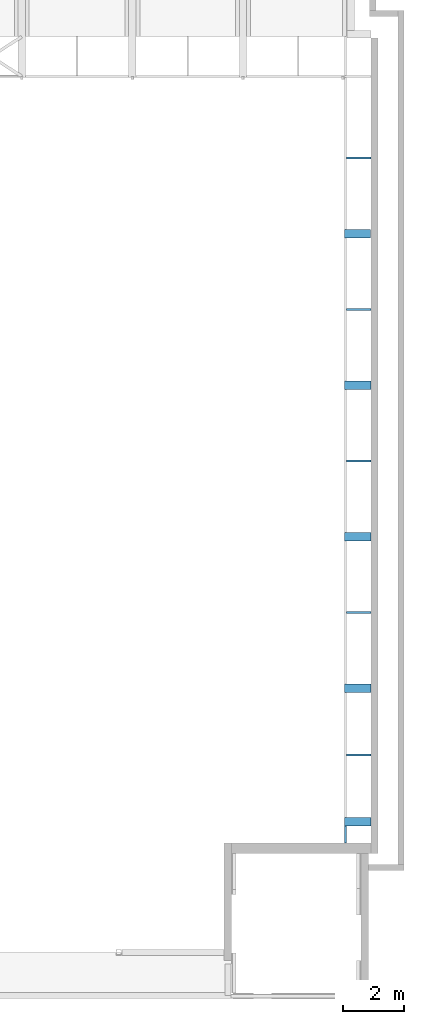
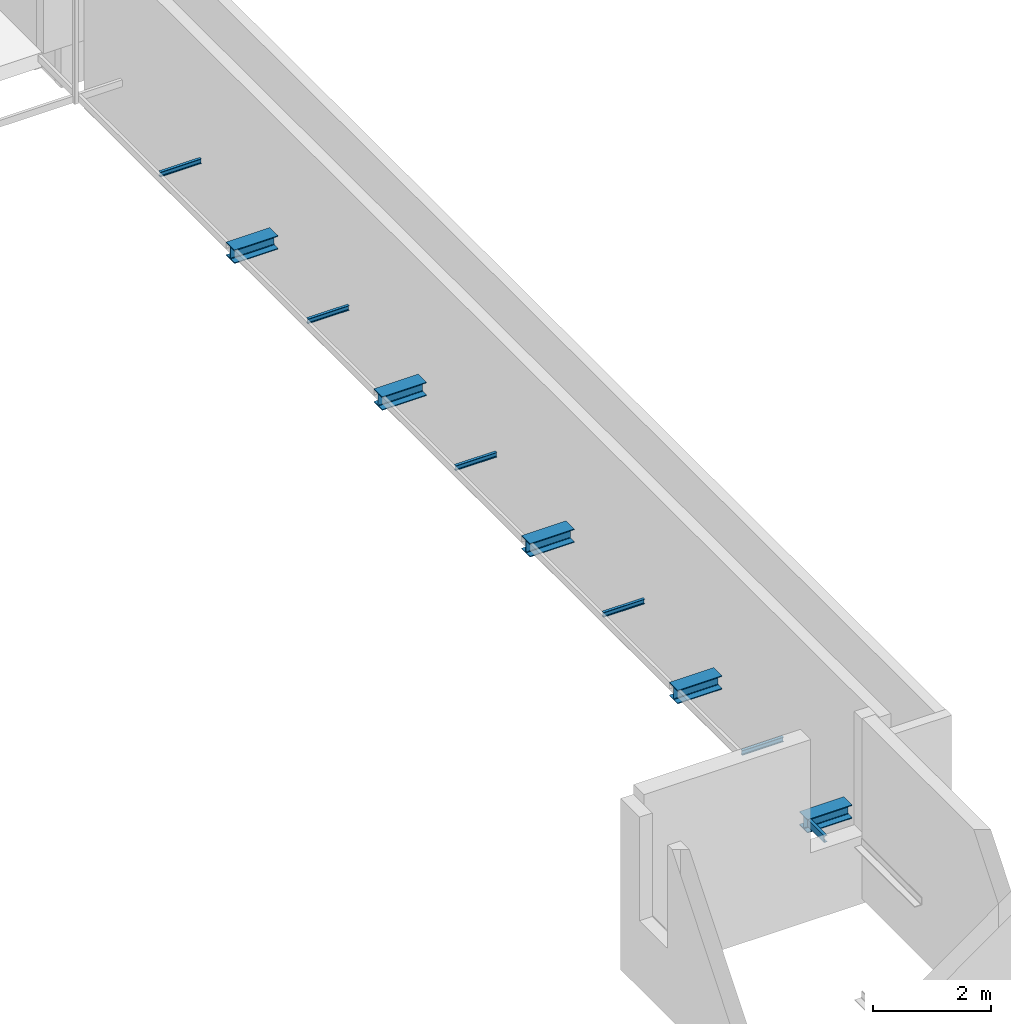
# One storey, part 47 of 68: 11 beams.
"""IFC2X3 building model written with IfcOpenShell, lengths in millimetres."""

from ifc_helpers import new_model, entity, si_unit, converted_unit, derived_unit, direction, frame, frame_2d, origin, place, context, subcontext, project, spatial, polyline, circle_curve, parameter, trimmed, segment, composite_curve, outline, extrude, material, type_object, element, save


model = new_model("IFC2X3")

# Units and contexts
model_context = context("Model", 3, precision=0.01, world=origin(), true_north=direction((6.12303176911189e-17, 1.0)))
body_context = subcontext(model_context, "Body", "Model", "MODEL_VIEW")
ifc_project = project(units=[si_unit("LENGTHUNIT", "METRE", prefix="MILLI"), si_unit("AREAUNIT", "SQUARE_METRE", prefix="MILLI"), si_unit("VOLUMEUNIT", "CUBIC_METRE"), converted_unit("PLANEANGLEUNIT", "DEGREE", entity("IfcRatioMeasure", 0.0174532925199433), si_unit("PLANEANGLEUNIT", "RADIAN"), dimensions=[0, 0, 0, 0, 0, 0, 0]), si_unit("MASSUNIT", "GRAM", prefix="KILO"), derived_unit("MASSDENSITYUNIT", [(si_unit("MASSUNIT", "GRAM", prefix="KILO"), 1), (si_unit("LENGTHUNIT", "METRE"), -3)]), derived_unit("MOMENTOFINERTIAUNIT", [(si_unit("LENGTHUNIT", "METRE"), 4)]), si_unit("TIMEUNIT", "SECOND"), si_unit("FREQUENCYUNIT", "HERTZ"), si_unit("THERMODYNAMICTEMPERATUREUNIT", "DEGREE_CELSIUS"), derived_unit("THERMALTRANSMITTANCEUNIT", [(si_unit("MASSUNIT", "GRAM", prefix="KILO"), 1), (si_unit("THERMODYNAMICTEMPERATUREUNIT", "KELVIN"), -1), (si_unit("TIMEUNIT", "SECOND"), -3)]), derived_unit("VOLUMETRICFLOWRATEUNIT", [(si_unit("LENGTHUNIT", "METRE"), 3), (si_unit("TIMEUNIT", "SECOND"), -1)]), si_unit("ELECTRICCURRENTUNIT", "AMPERE"), si_unit("ELECTRICVOLTAGEUNIT", "VOLT"), si_unit("POWERUNIT", "WATT"), si_unit("FORCEUNIT", "NEWTON", prefix="KILO"), si_unit("ILLUMINANCEUNIT", "LUX"), si_unit("LUMINOUSFLUXUNIT", "LUMEN"), si_unit("LUMINOUSINTENSITYUNIT", "CANDELA"), derived_unit("USERDEFINED", [(si_unit("MASSUNIT", "GRAM", prefix="KILO"), -1), (si_unit("LENGTHUNIT", "METRE"), -2), (si_unit("TIMEUNIT", "SECOND"), 3), (si_unit("LUMINOUSFLUXUNIT", "LUMEN"), 1)]), derived_unit("LINEARVELOCITYUNIT", [(si_unit("LENGTHUNIT", "METRE"), 1), (si_unit("TIMEUNIT", "SECOND"), -1)]), si_unit("PRESSUREUNIT", "PASCAL"), derived_unit("USERDEFINED", [(si_unit("LENGTHUNIT", "METRE"), -2), (si_unit("MASSUNIT", "GRAM", prefix="KILO"), 1), (si_unit("TIMEUNIT", "SECOND"), -2)]), derived_unit("LINEARFORCEUNIT", [(si_unit("MASSUNIT", "GRAM", prefix="KILO"), 1), (si_unit("LENGTHUNIT", "METRE"), 1), (si_unit("TIMEUNIT", "SECOND"), -2), (si_unit("LENGTHUNIT", "METRE"), -1)]), derived_unit("PLANARFORCEUNIT", [(si_unit("MASSUNIT", "GRAM", prefix="KILO"), 1), (si_unit("LENGTHUNIT", "METRE"), 1), (si_unit("TIMEUNIT", "SECOND"), -2), (si_unit("LENGTHUNIT", "METRE"), -2)])], contexts=[model_context])

# Site, building, storey
site_placement = place(None, origin())
site = spatial("IfcSite", under=ifc_project, at=site_placement, Name="Theater aan de Parade", CompositionType="ELEMENT")
building_placement = place(site_placement, origin())
building = spatial("IfcBuilding", under=site, at=building_placement, Name="Theater aan de Parade", CompositionType="ELEMENT")
storey_placement = place(building_placement, frame((0.0, 0.0, 8750.0)))
storey = spatial("IfcBuildingStorey", under=building, at=storey_placement, Name="02 tweede verdieping", CompositionType="ELEMENT", Elevation=8750.0)

# Beams
ifc_material = material(Name="00_PBT_MAT_staal_S355")
beam_type_1 = type_object("IfcBeamType", Name="28_PBT_SF_staal_UNP-profiel:S355_UNP140", PredefinedType="NOTDEFINED")
beam_1_placement = place(storey_placement, frame((86243.6688810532, 19810.0002435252, 0.0), z_axis=(0.0, 0.0, 1.0), x_axis=(0.0, 1.0, 0.0)))
element("IfcBeam", 1, at=beam_1_placement, inside=storey, type_object=beam_type_1, material=ifc_material, Name="28_PBT_SF_staal_UNP-profiel:S355_UNP140", ObjectType="28_PBT_SF_staal_UNP-profiel:S355_UNP140", context=body_context, shape_type="SweptSolid", body=[
    extrude(outline(composite_curve([segment(polyline([(67.0159744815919, -26.8997876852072), (70.0, -26.8997876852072)]), True, "CONTINUOUS"), segment(polyline([(70.0, -26.8997876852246), (70.0, 33.1002123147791)]), True, "CONTINUOUS"), segment(polyline([(70.0, 33.1002123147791), (-70.0, 33.1002123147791)]), True, "CONTINUOUS"), segment(polyline([(-70.0, 33.1002123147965), (-70.0, -26.8997876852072)]), True, "CONTINUOUS"), segment(polyline([(-70.0, -26.8997876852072), (-67.0159744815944, -26.8997876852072)]), True, "CONTINUOUS"), segment(trimmed(circle_curve(frame_2d((-67.0159744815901, -21.8997876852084), x_axis=(0.0, -1.0)), 4.99999999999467), [parameter(0.0)], [parameter(85.4260787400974)], True, "PARAMETER"), True, "CONTINUOUS"), segment(polyline([(-62.031898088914, -22.298513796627), (-58.8962038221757, 16.8976645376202)]), True, "CONTINUOUS"), segment(trimmed(circle_curve(frame_2d((-48.9280510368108, 16.100212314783), x_axis=(-0.996815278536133, 0.0797452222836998)), 10.0000000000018), [parameter(274.57392125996)], [parameter(0.0)], True, "PARAMETER"), False, "CONTINUOUS"), segment(polyline([(-48.9280510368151, 26.1002123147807), (48.9280510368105, 26.1002123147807)]), True, "CONTINUOUS"), segment(trimmed(circle_curve(frame_2d((48.9280510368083, 16.100212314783), x_axis=(0.0, 1.0)), 10.0000000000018), [parameter(274.57392125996)], [parameter(0.0)], True, "PARAMETER"), False, "CONTINUOUS"), segment(polyline([(58.8962038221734, 16.8976645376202), (62.0318980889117, -22.298513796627)]), True, "CONTINUOUS"), segment(trimmed(circle_curve(frame_2d((67.0159744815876, -21.8997876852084), x_axis=(-0.996815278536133, -0.0797452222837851)), 4.99999999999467), [parameter(0.0)], [parameter(85.4260787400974)], True, "PARAMETER"), True, "CONTINUOUS")], self_intersect=False)), frame((0.0, -15.5002123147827, 1210.0), z_axis=(1.0, 0.0, 0.0), x_axis=(0.0, 0.0, -1.0)), (0.0, 0.0, 1.0), 559.999756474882),
])
beam_type_2 = type_object("IfcBeamType", Name="28_PBT_SF_staal_H-profiel:S355_HE280B", PredefinedType="NOTDEFINED")
beam_2_placement = place(storey_placement, frame((87081.0, 39910.0, 0.0), z_axis=(0.0, 0.0, 1.0), x_axis=(-1.0, 0.0, 0.0)))
element("IfcBeam", 2, at=beam_2_placement, inside=storey, type_object=beam_type_2, material=ifc_material, Name="28_PBT_SF_staal_H-profiel:S355_HE280B", ObjectType="28_PBT_SF_staal_H-profiel:S355_HE280B", context=body_context, shape_type="SweptSolid", body=[
    extrude(outline(composite_curve([segment(polyline([(122.0, -140.0), (140.0, -140.0)]), True, "CONTINUOUS"), segment(polyline([(140.0, -140.0), (140.0, 140.0)]), True, "CONTINUOUS"), segment(polyline([(140.0, 140.0), (122.0, 140.0)]), True, "CONTINUOUS"), segment(polyline([(122.0, 140.0), (122.0, 29.2500000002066)]), True, "CONTINUOUS"), segment(trimmed(circle_curve(frame_2d((98.0, 29.250000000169), x_axis=(1.0, 0.0)), 24.0000000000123), [parameter(270.000000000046)], [parameter(0.0)], True, "PARAMETER"), False, "CONTINUOUS"), segment(polyline([(98.0, 5.25000000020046), (-98.0, 5.24999999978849)]), True, "CONTINUOUS"), segment(trimmed(circle_curve(frame_2d((-98.0, 29.2499999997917), x_axis=(0.0, -1.0)), 24.0000000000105), [parameter(270.000000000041)], [parameter(0.0)], True, "PARAMETER"), False, "CONTINUOUS"), segment(polyline([(-122.0, 29.2499999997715), (-122.0, 140.0)]), True, "CONTINUOUS"), segment(polyline([(-122.0, 140.0), (-140.0, 140.0)]), True, "CONTINUOUS"), segment(polyline([(-140.0, 140.0), (-140.0, -140.0)]), True, "CONTINUOUS"), segment(polyline([(-140.0, -140.0), (-122.0, -140.0)]), True, "CONTINUOUS"), segment(polyline([(-122.0, -140.0), (-122.0, -29.2500000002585)]), True, "CONTINUOUS"), segment(trimmed(circle_curve(frame_2d((-98.0, -29.250000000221), x_axis=(-1.0, 0.0)), 24.0000000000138), [parameter(270.000000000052)], [parameter(0.0)], True, "PARAMETER"), False, "CONTINUOUS"), segment(polyline([(-98.0, -5.25000000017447), (98.0, -5.2499999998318)]), True, "CONTINUOUS"), segment(trimmed(circle_curve(frame_2d((98.0, -29.2499999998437), x_axis=(0.0, 1.0)), 24.0000000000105), [parameter(270.000000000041)], [parameter(0.0)], True, "PARAMETER"), False, "CONTINUOUS"), segment(polyline([(122.0, -29.2499999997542), (122.0, -140.0)]), True, "CONTINUOUS")], self_intersect=False)), frame((0.0, 0.0, 1140.0), z_axis=(1.0, 0.0, 0.0), x_axis=(0.0, 0.0, -1.0)), (0.0, 0.0, 1.0), 854.93111894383),
])
beam_3_placement = place(storey_placement, frame((87095.0, 34910.0, 0.0), z_axis=(0.0, 0.0, 1.0), x_axis=(-1.0, 0.0, 0.0)))
element("IfcBeam", 3, at=beam_3_placement, inside=storey, type_object=beam_type_2, material=ifc_material, Name="28_PBT_SF_staal_H-profiel:S355_HE280B", ObjectType="28_PBT_SF_staal_H-profiel:S355_HE280B", context=body_context, shape_type="SweptSolid", body=[
    extrude(outline(composite_curve([segment(polyline([(122.0, -140.0), (140.0, -140.0)]), True, "CONTINUOUS"), segment(polyline([(140.0, -140.0), (140.0, 140.0)]), True, "CONTINUOUS"), segment(polyline([(140.0, 140.0), (122.0, 140.0)]), True, "CONTINUOUS"), segment(polyline([(122.0, 140.0), (122.0, 29.2500000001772)]), True, "CONTINUOUS"), segment(trimmed(circle_curve(frame_2d((98.0, 29.2500000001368), x_axis=(1.0, 0.0)), 23.9999999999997), [parameter(270.0)], [parameter(0.0)], True, "PARAMETER"), False, "CONTINUOUS"), segment(polyline([(98.0, 5.25000000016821), (-98.0, 5.24999999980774)]), True, "CONTINUOUS"), segment(trimmed(circle_curve(frame_2d((-98.0, 29.2499999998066), x_axis=(0.0, -1.0)), 23.9999999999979), [parameter(269.999999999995)], [parameter(0.0)], True, "PARAMETER"), False, "CONTINUOUS"), segment(polyline([(-122.0, 29.2499999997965), (-122.0, 140.0)]), True, "CONTINUOUS"), segment(polyline([(-122.0, 140.0), (-140.0, 140.0)]), True, "CONTINUOUS"), segment(polyline([(-140.0, 140.0), (-140.0, -140.0)]), True, "CONTINUOUS"), segment(polyline([(-140.0, -140.0), (-122.0, -140.0)]), True, "CONTINUOUS"), segment(polyline([(-122.0, -140.0), (-122.0, -29.2500000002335)]), True, "CONTINUOUS"), segment(trimmed(circle_curve(frame_2d((-98.0, -29.2500000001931), x_axis=(-1.0, 0.0)), 24.0000000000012), [parameter(270.0)], [parameter(0.0)], True, "PARAMETER"), False, "CONTINUOUS"), segment(polyline([(-98.0, -5.25000000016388), (98.0, -5.24999999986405)]), True, "CONTINUOUS"), segment(trimmed(circle_curve(frame_2d((98.0, -29.2499999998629), x_axis=(0.0, 1.0)), 23.9999999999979), [parameter(269.999999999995)], [parameter(0.0)], True, "PARAMETER"), False, "CONTINUOUS"), segment(polyline([(122.0, -29.2499999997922), (122.0, -140.0)]), True, "CONTINUOUS")], self_intersect=False)), frame((0.0, 0.0, 1140.0), z_axis=(1.0, 0.0, 0.0), x_axis=(0.0, 0.0, -1.0)), (0.0, 0.0, 1.0), 868.931118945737),
])
beam_4_placement = place(storey_placement, frame((87095.0, 29910.0, 0.0), z_axis=(0.0, 0.0, 1.0), x_axis=(-1.0, 0.0, 0.0)))
element("IfcBeam", 4, at=beam_4_placement, inside=storey, type_object=beam_type_2, material=ifc_material, Name="28_PBT_SF_staal_H-profiel:S355_HE280B", ObjectType="28_PBT_SF_staal_H-profiel:S355_HE280B", context=body_context, shape_type="SweptSolid", body=[
    extrude(outline(composite_curve([segment(polyline([(122.0, -140.0), (140.0, -140.0)]), True, "CONTINUOUS"), segment(polyline([(140.0, -140.0), (140.0, 140.0)]), True, "CONTINUOUS"), segment(polyline([(140.0, 140.0), (122.0, 140.0)]), True, "CONTINUOUS"), segment(polyline([(122.0, 140.0), (122.0, 29.2500000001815)]), True, "CONTINUOUS"), segment(trimmed(circle_curve(frame_2d((98.0, 29.2500000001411), x_axis=(1.0, 0.0)), 23.9999999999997), [parameter(270.0)], [parameter(0.0)], True, "PARAMETER"), False, "CONTINUOUS"), segment(polyline([(98.0, 5.25000000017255), (-98.0, 5.24999999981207)]), True, "CONTINUOUS"), segment(trimmed(circle_curve(frame_2d((-98.0, 29.2499999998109), x_axis=(0.0, -1.0)), 23.9999999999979), [parameter(269.999999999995)], [parameter(0.0)], True, "PARAMETER"), False, "CONTINUOUS"), segment(polyline([(-122.0, 29.2499999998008), (-122.0, 140.0)]), True, "CONTINUOUS"), segment(polyline([(-122.0, 140.0), (-140.0, 140.0)]), True, "CONTINUOUS"), segment(polyline([(-140.0, 140.0), (-140.0, -140.0)]), True, "CONTINUOUS"), segment(polyline([(-140.0, -140.0), (-122.0, -140.0)]), True, "CONTINUOUS"), segment(polyline([(-122.0, -140.0), (-122.0, -29.2500000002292)]), True, "CONTINUOUS"), segment(trimmed(circle_curve(frame_2d((-98.0, -29.2500000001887), x_axis=(-1.0, 0.0)), 24.0000000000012), [parameter(270.0)], [parameter(0.0)], True, "PARAMETER"), False, "CONTINUOUS"), segment(polyline([(-98.0, -5.25000000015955), (98.0, -5.24999999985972)]), True, "CONTINUOUS"), segment(trimmed(circle_curve(frame_2d((98.0, -29.2499999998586), x_axis=(0.0, 1.0)), 23.9999999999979), [parameter(269.999999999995)], [parameter(0.0)], True, "PARAMETER"), False, "CONTINUOUS"), segment(polyline([(122.0, -29.2499999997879), (122.0, -140.0)]), True, "CONTINUOUS")], self_intersect=False)), frame((0.0, 0.0, 1140.0), z_axis=(1.0, 0.0, 0.0), x_axis=(0.0, 0.0, -1.0)), (0.0, 0.0, 1.0), 868.931118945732),
])
beam_5_placement = place(storey_placement, frame((87095.0, 24910.0, 0.0), z_axis=(0.0, 0.0, 1.0), x_axis=(-1.0, 0.0, 0.0)))
element("IfcBeam", 5, at=beam_5_placement, inside=storey, type_object=beam_type_2, material=ifc_material, Name="28_PBT_SF_staal_H-profiel:S355_HE280B", ObjectType="28_PBT_SF_staal_H-profiel:S355_HE280B", context=body_context, shape_type="SweptSolid", body=[
    extrude(outline(composite_curve([segment(polyline([(122.0, -140.0), (140.0, -140.0)]), True, "CONTINUOUS"), segment(polyline([(140.0, -140.0), (140.0, 140.0)]), True, "CONTINUOUS"), segment(polyline([(140.0, 140.0), (122.0, 140.0)]), True, "CONTINUOUS"), segment(polyline([(122.0, 140.0), (122.0, 29.2500000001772)]), True, "CONTINUOUS"), segment(trimmed(circle_curve(frame_2d((98.0, 29.2500000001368), x_axis=(1.0, 0.0)), 23.9999999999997), [parameter(270.0)], [parameter(0.0)], True, "PARAMETER"), False, "CONTINUOUS"), segment(polyline([(98.0, 5.25000000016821), (-98.0, 5.24999999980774)]), True, "CONTINUOUS"), segment(trimmed(circle_curve(frame_2d((-98.0, 29.2499999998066), x_axis=(0.0, -1.0)), 23.9999999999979), [parameter(269.999999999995)], [parameter(0.0)], True, "PARAMETER"), False, "CONTINUOUS"), segment(polyline([(-122.0, 29.2499999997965), (-122.0, 140.0)]), True, "CONTINUOUS"), segment(polyline([(-122.0, 140.0), (-140.0, 140.0)]), True, "CONTINUOUS"), segment(polyline([(-140.0, 140.0), (-140.0, -140.0)]), True, "CONTINUOUS"), segment(polyline([(-140.0, -140.0), (-122.0, -140.0)]), True, "CONTINUOUS"), segment(polyline([(-122.0, -140.0), (-122.0, -29.2500000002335)]), True, "CONTINUOUS"), segment(trimmed(circle_curve(frame_2d((-98.0, -29.2500000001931), x_axis=(-1.0, 0.0)), 24.0000000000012), [parameter(270.0)], [parameter(0.0)], True, "PARAMETER"), False, "CONTINUOUS"), segment(polyline([(-98.0, -5.25000000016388), (98.0, -5.24999999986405)]), True, "CONTINUOUS"), segment(trimmed(circle_curve(frame_2d((98.0, -29.2499999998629), x_axis=(0.0, 1.0)), 23.9999999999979), [parameter(269.999999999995)], [parameter(0.0)], True, "PARAMETER"), False, "CONTINUOUS"), segment(polyline([(122.0, -29.2499999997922), (122.0, -140.0)]), True, "CONTINUOUS")], self_intersect=False)), frame((0.0, 0.0, 1140.0), z_axis=(1.0, 0.0, 0.0), x_axis=(0.0, 0.0, -1.0)), (0.0, 0.0, 1.0), 868.931118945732),
])
beam_6_placement = place(storey_placement, frame((87095.0, 20510.0, 0.0), z_axis=(0.0, 0.0, 1.0), x_axis=(-1.0, 0.0, 0.0)))
element("IfcBeam", 6, at=beam_6_placement, inside=storey, type_object=beam_type_2, material=ifc_material, Name="28_PBT_SF_staal_H-profiel:S355_HE280B", ObjectType="28_PBT_SF_staal_H-profiel:S355_HE280B", context=body_context, shape_type="SweptSolid", body=[
    extrude(outline(composite_curve([segment(polyline([(122.0, -140.0), (140.0, -140.0)]), True, "CONTINUOUS"), segment(polyline([(140.0, -140.0), (140.0, 140.0)]), True, "CONTINUOUS"), segment(polyline([(140.0, 140.0), (122.0, 140.0)]), True, "CONTINUOUS"), segment(polyline([(122.0, 140.0), (122.0, 29.2500000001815)]), True, "CONTINUOUS"), segment(trimmed(circle_curve(frame_2d((98.0, 29.2500000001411), x_axis=(1.0, 0.0)), 23.9999999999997), [parameter(270.0)], [parameter(0.0)], True, "PARAMETER"), False, "CONTINUOUS"), segment(polyline([(98.0, 5.25000000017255), (-98.0, 5.24999999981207)]), True, "CONTINUOUS"), segment(trimmed(circle_curve(frame_2d((-98.0, 29.2499999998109), x_axis=(0.0, -1.0)), 23.9999999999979), [parameter(269.999999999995)], [parameter(0.0)], True, "PARAMETER"), False, "CONTINUOUS"), segment(polyline([(-122.0, 29.2499999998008), (-122.0, 140.0)]), True, "CONTINUOUS"), segment(polyline([(-122.0, 140.0), (-140.0, 140.0)]), True, "CONTINUOUS"), segment(polyline([(-140.0, 140.0), (-140.0, -140.0)]), True, "CONTINUOUS"), segment(polyline([(-140.0, -140.0), (-122.0, -140.0)]), True, "CONTINUOUS"), segment(polyline([(-122.0, -140.0), (-122.0, -29.2500000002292)]), True, "CONTINUOUS"), segment(trimmed(circle_curve(frame_2d((-98.0, -29.2500000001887), x_axis=(-1.0, 0.0)), 24.0000000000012), [parameter(270.0)], [parameter(0.0)], True, "PARAMETER"), False, "CONTINUOUS"), segment(polyline([(-98.0, -5.25000000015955), (98.0, -5.24999999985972)]), True, "CONTINUOUS"), segment(trimmed(circle_curve(frame_2d((98.0, -29.2499999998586), x_axis=(0.0, 1.0)), 23.9999999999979), [parameter(269.999999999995)], [parameter(0.0)], True, "PARAMETER"), False, "CONTINUOUS"), segment(polyline([(122.0, -29.2499999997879), (122.0, -140.0)]), True, "CONTINUOUS")], self_intersect=False)), frame((0.0, 0.0, 1140.0), z_axis=(1.0, 0.0, 0.0), x_axis=(0.0, 0.0, -1.0)), (0.0, 0.0, 1.0), 868.931118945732),
])
beam_type_3 = type_object("IfcBeamType", Name="28_PBT_SF_staal_IPE-profiel:S355_IPE100", PredefinedType="NOTDEFINED")
beam_7_placement = place(storey_placement, frame((87095.0, 37410.0, 0.0), z_axis=(0.0, 0.0, 1.0), x_axis=(-1.0, 0.0, 0.0)))
element("IfcBeam", 7, at=beam_7_placement, inside=storey, type_object=beam_type_3, material=ifc_material, Name="28_PBT_SF_staal_IPE-profiel:S355_IPE100", ObjectType="28_PBT_SF_staal_IPE-profiel:S355_IPE100", context=body_context, shape_type="SweptSolid", body=[
    extrude(outline(composite_curve([segment(polyline([(44.3000000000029, -27.4999999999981), (50.0, -27.4999999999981)]), True, "CONTINUOUS"), segment(polyline([(50.0, -27.4999999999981), (50.0, 27.5000000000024)]), True, "CONTINUOUS"), segment(polyline([(50.0, 27.5000000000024), (44.3000000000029, 27.5000000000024)]), True, "CONTINUOUS"), segment(polyline([(44.3000000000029, 27.5000000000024), (44.3000000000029, 9.05000000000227)]), True, "CONTINUOUS"), segment(trimmed(circle_curve(frame_2d((37.3000000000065, 9.04999999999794), x_axis=(1.0, 0.0)), 6.99999999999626), [parameter(269.999999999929)], [parameter(0.0)], True, "PARAMETER"), False, "CONTINUOUS"), segment(polyline([(37.3000000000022, 2.05000000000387), (-37.2999999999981, 2.05000000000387)]), True, "CONTINUOUS"), segment(trimmed(circle_curve(frame_2d((-37.2999999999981, 9.05000000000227), x_axis=(0.0, -1.0)), 6.99999999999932), [parameter(270.0)], [parameter(0.0)], True, "PARAMETER"), False, "CONTINUOUS"), segment(polyline([(-44.2999999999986, 9.05000000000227), (-44.2999999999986, 27.5000000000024)]), True, "CONTINUOUS"), segment(polyline([(-44.2999999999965, 27.5000000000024), (-50.0, 27.5000000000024)]), True, "CONTINUOUS"), segment(polyline([(-50.0, 27.5000000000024), (-50.0, -27.4999999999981)]), True, "CONTINUOUS"), segment(polyline([(-50.0, -27.4999999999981), (-44.2999999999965, -27.4999999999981)]), True, "CONTINUOUS"), segment(polyline([(-44.2999999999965, -27.4999999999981), (-44.2999999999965, -9.04999999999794)]), True, "CONTINUOUS"), segment(trimmed(circle_curve(frame_2d((-37.3000000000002, -9.04999999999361), x_axis=(-1.0, 0.0)), 6.99999999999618), [parameter(269.999999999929)], [parameter(0.0)], True, "PARAMETER"), False, "CONTINUOUS"), segment(polyline([(-37.2999999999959, -2.04999999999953), (37.3000000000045, -2.04999999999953)]), True, "CONTINUOUS"), segment(trimmed(circle_curve(frame_2d((37.3000000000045, -9.04999999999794), x_axis=(0.0, 1.0)), 6.99999999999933), [parameter(270.0)], [parameter(0.0)], True, "PARAMETER"), False, "CONTINUOUS"), segment(polyline([(44.3000000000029, -9.04999999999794), (44.3000000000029, -27.4999999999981)]), True, "CONTINUOUS")], self_intersect=False)), frame((0.0, 0.0, 1230.0), z_axis=(1.0, 0.0, 0.0), x_axis=(0.0, 0.0, -1.0)), (0.0, 0.0, 1.0), 808.931118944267),
])
beam_8_placement = place(storey_placement, frame((87095.0, 42410.0, 0.0), z_axis=(0.0, 0.0, 1.0), x_axis=(-1.0, 0.0, 0.0)))
element("IfcBeam", 8, at=beam_8_placement, inside=storey, type_object=beam_type_3, material=ifc_material, Name="28_PBT_SF_staal_IPE-profiel:S355_IPE100", ObjectType="28_PBT_SF_staal_IPE-profiel:S355_IPE100", context=body_context, shape_type="SweptSolid", body=[
    extrude(outline(composite_curve([segment(polyline([(44.3000000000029, -27.5000000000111), (50.0, -27.5000000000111)]), True, "CONTINUOUS"), segment(polyline([(50.0, -27.5000000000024), (50.0, 27.4999999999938)]), True, "CONTINUOUS"), segment(polyline([(50.0, 27.4999999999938), (44.3000000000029, 27.4999999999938)]), True, "CONTINUOUS"), segment(polyline([(44.3000000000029, 27.4999999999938), (44.3000000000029, 9.04999999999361)]), True, "CONTINUOUS"), segment(trimmed(circle_curve(frame_2d((37.3000000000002, 9.04999999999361), x_axis=(1.0, 0.0)), 7.00000000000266), [parameter(270.000000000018)], [parameter(0.0)], True, "PARAMETER"), False, "CONTINUOUS"), segment(polyline([(37.3000000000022, 2.0499999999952), (-37.2999999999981, 2.0499999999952)]), True, "CONTINUOUS"), segment(trimmed(circle_curve(frame_2d((-37.2999999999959, 9.04999999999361), x_axis=(0.0, -1.0)), 7.00000000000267), [parameter(270.000000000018)], [parameter(0.0)], True, "PARAMETER"), False, "CONTINUOUS"), segment(polyline([(-44.2999999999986, 9.04999999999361), (-44.2999999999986, 27.4999999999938)]), True, "CONTINUOUS"), segment(polyline([(-44.2999999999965, 27.4999999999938), (-50.0, 27.4999999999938)]), True, "CONTINUOUS"), segment(polyline([(-50.0, 27.4999999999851), (-50.0, -27.5000000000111)]), True, "CONTINUOUS"), segment(polyline([(-50.0, -27.5000000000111), (-44.2999999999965, -27.5000000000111)]), True, "CONTINUOUS"), segment(polyline([(-44.2999999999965, -27.5000000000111), (-44.2999999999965, -9.05000000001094)]), True, "CONTINUOUS"), segment(trimmed(circle_curve(frame_2d((-37.2999999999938, -9.05000000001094), x_axis=(-1.0, 0.0)), 7.00000000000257), [parameter(270.000000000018)], [parameter(0.0)], True, "PARAMETER"), False, "CONTINUOUS"), segment(polyline([(-37.2999999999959, -2.05000000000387), (37.3000000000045, -2.05000000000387)]), True, "CONTINUOUS"), segment(trimmed(circle_curve(frame_2d((37.3000000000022, -9.05000000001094), x_axis=(0.0, 1.0)), 7.00000000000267), [parameter(270.000000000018)], [parameter(0.0)], True, "PARAMETER"), False, "CONTINUOUS"), segment(polyline([(44.3000000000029, -9.05000000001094), (44.3000000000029, -27.5000000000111)]), True, "CONTINUOUS")], self_intersect=False)), frame((0.0, 0.0, 1230.0), z_axis=(1.0, 0.0, 0.0), x_axis=(0.0, 0.0, -1.0)), (0.0, 0.0, 1.0), 808.931118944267),
])
beam_9_placement = place(storey_placement, frame((87095.0, 32410.0, 0.0), z_axis=(0.0, 0.0, 1.0), x_axis=(-1.0, 0.0, 0.0)))
element("IfcBeam", 9, at=beam_9_placement, inside=storey, type_object=beam_type_3, material=ifc_material, Name="28_PBT_SF_staal_IPE-profiel:S355_IPE100", ObjectType="28_PBT_SF_staal_IPE-profiel:S355_IPE100", context=body_context, shape_type="SweptSolid", body=[
    extrude(outline(composite_curve([segment(polyline([(44.3000000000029, -27.5000000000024), (50.0, -27.5000000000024)]), True, "CONTINUOUS"), segment(polyline([(50.0, -27.5000000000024), (50.0, 27.4999999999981)]), True, "CONTINUOUS"), segment(polyline([(50.0, 27.4999999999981), (44.3000000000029, 27.4999999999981)]), True, "CONTINUOUS"), segment(polyline([(44.3000000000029, 27.4999999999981), (44.3000000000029, 9.04999999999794)]), True, "CONTINUOUS"), segment(trimmed(circle_curve(frame_2d((37.3000000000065, 9.04999999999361), x_axis=(1.0, 0.0)), 6.99999999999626), [parameter(269.999999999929)], [parameter(0.0)], True, "PARAMETER"), False, "CONTINUOUS"), segment(polyline([(37.3000000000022, 2.04999999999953), (-37.2999999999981, 2.04999999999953)]), True, "CONTINUOUS"), segment(trimmed(circle_curve(frame_2d((-37.2999999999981, 9.04999999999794), x_axis=(0.0, -1.0)), 6.99999999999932), [parameter(270.0)], [parameter(0.0)], True, "PARAMETER"), False, "CONTINUOUS"), segment(polyline([(-44.2999999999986, 9.04999999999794), (-44.2999999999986, 27.4999999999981)]), True, "CONTINUOUS"), segment(polyline([(-44.2999999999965, 27.4999999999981), (-50.0, 27.4999999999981)]), True, "CONTINUOUS"), segment(polyline([(-50.0, 27.4999999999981), (-50.0, -27.5000000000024)]), True, "CONTINUOUS"), segment(polyline([(-50.0, -27.5000000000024), (-44.2999999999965, -27.5000000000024)]), True, "CONTINUOUS"), segment(polyline([(-44.2999999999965, -27.5000000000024), (-44.2999999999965, -9.05000000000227)]), True, "CONTINUOUS"), segment(trimmed(circle_curve(frame_2d((-37.3000000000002, -9.04999999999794), x_axis=(-1.0, 0.0)), 6.99999999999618), [parameter(269.999999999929)], [parameter(0.0)], True, "PARAMETER"), False, "CONTINUOUS"), segment(polyline([(-37.2999999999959, -2.05000000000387), (37.3000000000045, -2.05000000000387)]), True, "CONTINUOUS"), segment(trimmed(circle_curve(frame_2d((37.3000000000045, -9.05000000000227), x_axis=(0.0, 1.0)), 6.99999999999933), [parameter(270.0)], [parameter(0.0)], True, "PARAMETER"), False, "CONTINUOUS"), segment(polyline([(44.3000000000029, -9.05000000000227), (44.3000000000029, -27.5000000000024)]), True, "CONTINUOUS")], self_intersect=False)), frame((0.0, 0.0, 1230.0), z_axis=(1.0, 0.0, 0.0), x_axis=(0.0, 0.0, -1.0)), (0.0, 0.0, 1.0), 808.931118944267),
])
beam_10_placement = place(storey_placement, frame((87095.0, 27410.0, 0.0), z_axis=(0.0, 0.0, 1.0), x_axis=(-1.0, 0.0, 0.0)))
element("IfcBeam", 10, at=beam_10_placement, inside=storey, type_object=beam_type_3, material=ifc_material, Name="28_PBT_SF_staal_IPE-profiel:S355_IPE100", ObjectType="28_PBT_SF_staal_IPE-profiel:S355_IPE100", context=body_context, shape_type="SweptSolid", body=[
    extrude(outline(composite_curve([segment(polyline([(44.3000000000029, -27.4999999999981), (50.0, -27.4999999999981)]), True, "CONTINUOUS"), segment(polyline([(50.0, -27.4999999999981), (50.0, 27.5000000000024)]), True, "CONTINUOUS"), segment(polyline([(50.0, 27.5000000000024), (44.3000000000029, 27.5000000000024)]), True, "CONTINUOUS"), segment(polyline([(44.3000000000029, 27.5000000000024), (44.3000000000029, 9.05000000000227)]), True, "CONTINUOUS"), segment(trimmed(circle_curve(frame_2d((37.3000000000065, 9.04999999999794), x_axis=(1.0, 0.0)), 6.99999999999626), [parameter(269.999999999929)], [parameter(0.0)], True, "PARAMETER"), False, "CONTINUOUS"), segment(polyline([(37.3000000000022, 2.05000000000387), (-37.2999999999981, 2.05000000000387)]), True, "CONTINUOUS"), segment(trimmed(circle_curve(frame_2d((-37.2999999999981, 9.05000000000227), x_axis=(0.0, -1.0)), 6.99999999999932), [parameter(270.0)], [parameter(0.0)], True, "PARAMETER"), False, "CONTINUOUS"), segment(polyline([(-44.2999999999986, 9.05000000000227), (-44.2999999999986, 27.5000000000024)]), True, "CONTINUOUS"), segment(polyline([(-44.2999999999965, 27.5000000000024), (-50.0, 27.5000000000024)]), True, "CONTINUOUS"), segment(polyline([(-50.0, 27.5000000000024), (-50.0, -27.4999999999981)]), True, "CONTINUOUS"), segment(polyline([(-50.0, -27.4999999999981), (-44.2999999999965, -27.4999999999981)]), True, "CONTINUOUS"), segment(polyline([(-44.2999999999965, -27.4999999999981), (-44.2999999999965, -9.04999999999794)]), True, "CONTINUOUS"), segment(trimmed(circle_curve(frame_2d((-37.3000000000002, -9.04999999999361), x_axis=(-1.0, 0.0)), 6.99999999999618), [parameter(269.999999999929)], [parameter(0.0)], True, "PARAMETER"), False, "CONTINUOUS"), segment(polyline([(-37.2999999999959, -2.04999999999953), (37.3000000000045, -2.04999999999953)]), True, "CONTINUOUS"), segment(trimmed(circle_curve(frame_2d((37.3000000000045, -9.04999999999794), x_axis=(0.0, 1.0)), 6.99999999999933), [parameter(270.0)], [parameter(0.0)], True, "PARAMETER"), False, "CONTINUOUS"), segment(polyline([(44.3000000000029, -9.04999999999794), (44.3000000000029, -27.4999999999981)]), True, "CONTINUOUS")], self_intersect=False)), frame((0.0, 0.0, 1230.0), z_axis=(1.0, 0.0, 0.0), x_axis=(0.0, 0.0, -1.0)), (0.0, 0.0, 1.0), 808.931118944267),
])
beam_11_placement = place(storey_placement, frame((87095.0, 22710.0, 0.0), z_axis=(0.0, 0.0, 1.0), x_axis=(-1.0, 0.0, 0.0)))
element("IfcBeam", 11, at=beam_11_placement, inside=storey, type_object=beam_type_3, material=ifc_material, Name="28_PBT_SF_staal_IPE-profiel:S355_IPE100", ObjectType="28_PBT_SF_staal_IPE-profiel:S355_IPE100", context=body_context, shape_type="SweptSolid", body=[
    extrude(outline(composite_curve([segment(polyline([(44.3000000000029, -27.4999999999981), (50.0, -27.4999999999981)]), True, "CONTINUOUS"), segment(polyline([(50.0, -27.4999999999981), (50.0, 27.5000000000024)]), True, "CONTINUOUS"), segment(polyline([(50.0, 27.5000000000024), (44.3000000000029, 27.5000000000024)]), True, "CONTINUOUS"), segment(polyline([(44.3000000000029, 27.5000000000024), (44.3000000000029, 9.05000000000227)]), True, "CONTINUOUS"), segment(trimmed(circle_curve(frame_2d((37.3000000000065, 9.04999999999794), x_axis=(1.0, 0.0)), 6.99999999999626), [parameter(269.999999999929)], [parameter(0.0)], True, "PARAMETER"), False, "CONTINUOUS"), segment(polyline([(37.3000000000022, 2.05000000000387), (-37.2999999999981, 2.05000000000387)]), True, "CONTINUOUS"), segment(trimmed(circle_curve(frame_2d((-37.2999999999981, 9.05000000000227), x_axis=(0.0, -1.0)), 6.99999999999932), [parameter(270.0)], [parameter(0.0)], True, "PARAMETER"), False, "CONTINUOUS"), segment(polyline([(-44.2999999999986, 9.05000000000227), (-44.2999999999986, 27.5000000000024)]), True, "CONTINUOUS"), segment(polyline([(-44.2999999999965, 27.5000000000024), (-50.0, 27.5000000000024)]), True, "CONTINUOUS"), segment(polyline([(-50.0, 27.5000000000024), (-50.0, -27.4999999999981)]), True, "CONTINUOUS"), segment(polyline([(-50.0, -27.4999999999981), (-44.2999999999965, -27.4999999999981)]), True, "CONTINUOUS"), segment(polyline([(-44.2999999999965, -27.4999999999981), (-44.2999999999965, -9.04999999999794)]), True, "CONTINUOUS"), segment(trimmed(circle_curve(frame_2d((-37.3000000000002, -9.04999999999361), x_axis=(-1.0, 0.0)), 6.99999999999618), [parameter(269.999999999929)], [parameter(0.0)], True, "PARAMETER"), False, "CONTINUOUS"), segment(polyline([(-37.2999999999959, -2.04999999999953), (37.3000000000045, -2.04999999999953)]), True, "CONTINUOUS"), segment(trimmed(circle_curve(frame_2d((37.3000000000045, -9.04999999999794), x_axis=(0.0, 1.0)), 6.99999999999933), [parameter(270.0)], [parameter(0.0)], True, "PARAMETER"), False, "CONTINUOUS"), segment(polyline([(44.3000000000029, -9.04999999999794), (44.3000000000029, -27.4999999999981)]), True, "CONTINUOUS")], self_intersect=False)), frame((0.0, 0.0, 1230.0), z_axis=(1.0, 0.0, 0.0), x_axis=(0.0, 0.0, -1.0)), (0.0, 0.0, 1.0), 808.931118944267),
])

save(model, "model.ifc")
